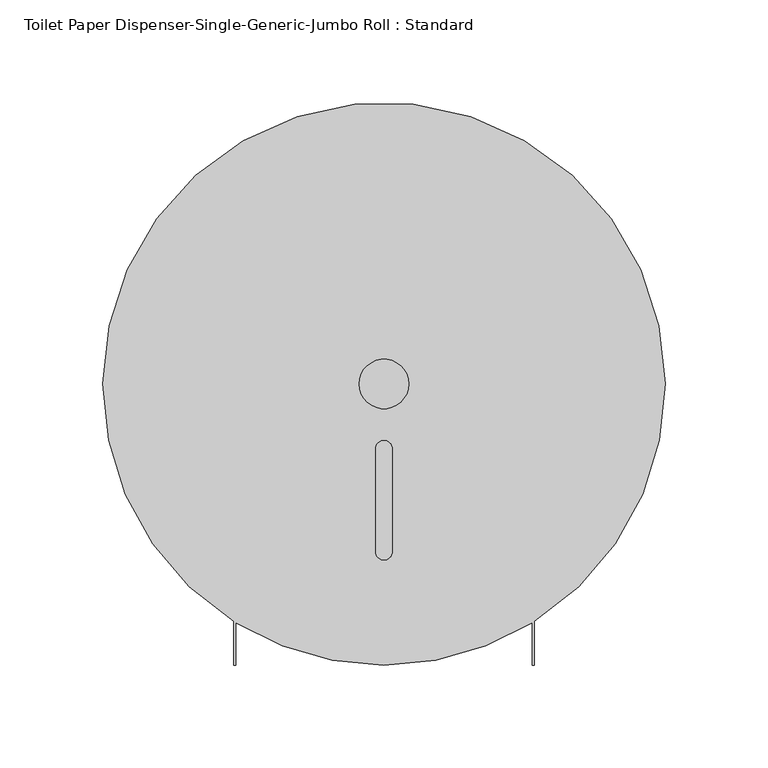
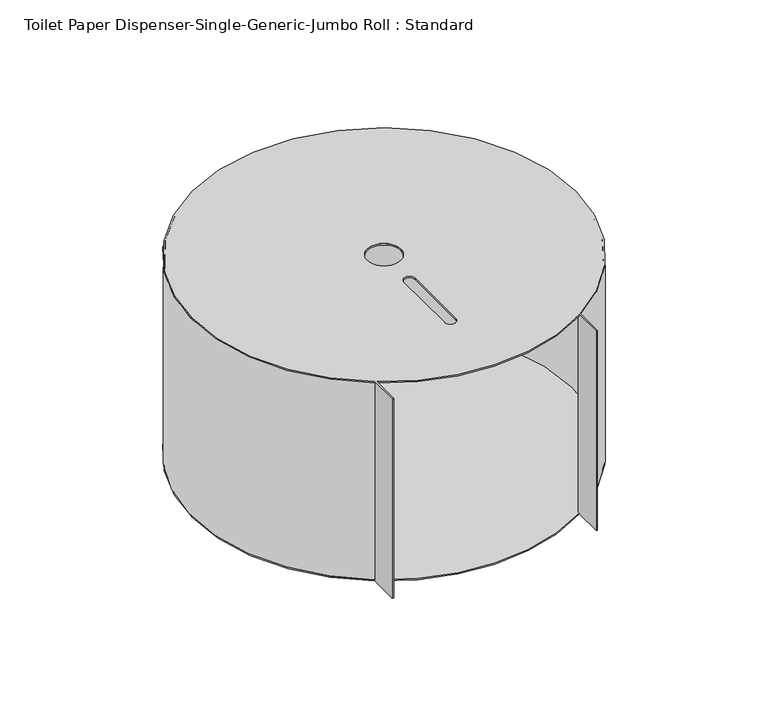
"""IFC4 building model written with IfcOpenShell, lengths in millimetres: proxy geometry, Toilet Paper Dispenser-Single-Generic-Jumbo Roll : Standard."""

from ifc_helpers import new_model, si_unit, frame, origin, origin_with_axes, place, context, project, spatial, polyline, circle_curve, source, transform, mapped, element, save
from ifc_brep_helpers import plane_surface, cylinder_surface, revolved_surface, advanced_brep


def toilet_paper_dispenser_single_generic_jumbo_roll_standard_5525cc7b(model_context):
    return source(origin(), model_context, "Body", "AdvancedBrep", [
        advanced_brep(
        [(-136.5, 0.0, 149.0), (136.5, 0.0, 149.0), (73.0, -115.3397156, 149.0), (73.0, -115.3397156, 1.0), (136.5, 0.0, 1.0), (-136.5, 0.0, 1.0), (-73.0, -115.3397156, 1.0), (-73.0, -115.3397156, 149.0), (-72.0, -114.7878478, 1.0), (-72.0, -114.7878478, 149.0), (-72.0, -115.96659, 149.0), (-72.0, -115.96659, 150.0), (-72.0, -136.5, 150.0), (-72.0, -136.5, 0.0), (-72.0, -115.96659, 0.0), (-72.0, -115.96659, 1.0), (72.0, -114.7878478, 1.0), (72.0, -114.7878478, 149.0), (72.0, -115.96659, 1.0), (72.0, -115.96659, 0.0), (72.0, -136.5, 0.0), (72.0, -136.5, 150.0), (72.0, -115.96659, 150.0), (72.0, -115.96659, 149.0), (136.5, 0.0, 150.0), (-136.5, 0.0, 150.0), (-73.0, -115.3397156, 150.0), (-73.0, -136.5, 150.0), (73.0, -136.5, 150.0), (73.0, -115.3397156, 150.0), (-12.0, 0.0, 150.0), (12.0, 0.0, 150.0), (-4.0, -31.5, 150.0), (4.0, -31.5, 150.0), (4.0, -81.5, 150.0), (-4.0, -81.5, 150.0), (-12.0, 0.0, 149.0), (12.0, 0.0, 149.0), (-4.0, -31.5, 149.0), (-4.0, -81.5, 149.0), (4.0, -81.5, 149.0), (4.0, -31.5, 149.0), (-73.0, -136.5, 0.0), (-73.0, -115.3397156, 0.0), (-136.5, 0.0, 0.0), (136.5, 0.0, 0.0), (73.0, -115.3397156, 0.0), (73.0, -136.5, 0.0)],
        [
            (0, 1, circle_curve(frame((0.0, 0.0, 149.0), z_axis=(0.0, 0.0, -1.0), x_axis=(1.0, 0.0, 0.0)), 136.5)),
            (1, 2, circle_curve(frame((0.0, 0.0, 149.0), z_axis=(0.0, 0.0, -1.0), x_axis=(1.0, 0.0, 0.0)), 136.5)),
            (2, 3),
            (3, 4, circle_curve(frame((0.0, 0.0, 1.0), z_axis=(0.0, 0.0, 1.0), x_axis=(1.0, 0.0, 0.0)), 136.5)),
            (4, 5, circle_curve(frame((0.0, 0.0, 1.0), z_axis=(0.0, 0.0, 1.0), x_axis=(1.0, 0.0, 0.0)), 136.5)),
            (5, 6, circle_curve(frame((0.0, 0.0, 1.0), z_axis=(0.0, 0.0, 1.0), x_axis=(1.0, 0.0, 0.0)), 136.5)),
            (6, 7),
            (7, 0, circle_curve(frame((0.0, 0.0, 149.0), z_axis=(0.0, 0.0, -1.0), x_axis=(1.0, 0.0, 0.0)), 136.5)),
            (8, 9),
            (9, 10),
            (10, 11),
            (11, 12),
            (12, 13),
            (13, 14),
            (14, 15),
            (15, 8),
            (8, 16, circle_curve(frame((0.0, 0.0, 1.0), z_axis=(0.0, 0.0, -1.0), x_axis=(1.0, 0.0, 0.0)), 135.5)),
            (16, 17),
            (17, 9, circle_curve(frame((0.0, 0.0, 149.0), z_axis=(0.0, 0.0, 1.0), x_axis=(1.0, 0.0, 0.0)), 135.5)),
            (16, 18),
            (18, 19),
            (19, 20),
            (20, 21),
            (21, 22),
            (22, 23),
            (23, 17),
            (24, 25, circle_curve(frame((0.0, 0.0, 150.0), z_axis=(0.0, 0.0, 1.0), x_axis=(1.0, 0.0, 0.0)), 136.5)),
            (25, 26, circle_curve(frame((0.0, 0.0, 150.0), z_axis=(0.0, 0.0, 1.0), x_axis=(1.0, 0.0, 0.0)), 136.5)),
            (26, 27),
            (27, 12),
            (11, 22, circle_curve(frame((0.0, 0.0, 150.0), z_axis=(0.0, 0.0, 1.0), x_axis=(1.0, 0.0, 0.0)), 136.5)),
            (21, 28),
            (28, 29),
            (29, 24, circle_curve(frame((0.0, 0.0, 150.0), z_axis=(0.0, 0.0, 1.0), x_axis=(1.0, 0.0, 0.0)), 136.5)),
            (30, 31, circle_curve(frame((0.0, 0.0, 150.0), z_axis=(0.0, 0.0, -1.0), x_axis=(1.0, 0.0, 0.0)), 12.0)),
            (31, 30, circle_curve(frame((0.0, 0.0, 150.0), z_axis=(0.0, 0.0, -1.0), x_axis=(1.0, 0.0, 0.0)), 12.0)),
            (32, 33, circle_curve(frame((0.0, -31.5, 150.0), z_axis=(0.0, 0.0, -1.0), x_axis=(1.0, 0.0, 0.0)), 4.0)),
            (33, 34),
            (34, 35, circle_curve(frame((0.0, -81.5, 150.0), z_axis=(0.0, 0.0, -1.0), x_axis=(1.0, 0.0, 0.0)), 4.0)),
            (35, 32),
            (23, 10, circle_curve(frame((0.0, 0.0, 149.0), z_axis=(0.0, 0.0, -1.0), x_axis=(1.0, 0.0, 0.0)), 136.5)),
            (36, 37, circle_curve(frame((0.0, 0.0, 149.0), z_axis=(0.0, 0.0, 1.0), x_axis=(1.0, 0.0, 0.0)), 12.0)),
            (37, 36, circle_curve(frame((0.0, 0.0, 149.0), z_axis=(0.0, 0.0, 1.0), x_axis=(1.0, 0.0, 0.0)), 12.0)),
            (38, 39),
            (39, 40, circle_curve(frame((0.0, -81.5, 149.0), z_axis=(0.0, 0.0, 1.0), x_axis=(1.0, 0.0, 0.0)), 4.0)),
            (40, 41),
            (41, 38, circle_curve(frame((0.0, -31.5, 149.0), z_axis=(0.0, 0.0, 1.0), x_axis=(1.0, 0.0, 0.0)), 4.0)),
            (25, 0),
            (7, 26),
            (1, 24),
            (29, 2),
            (30, 36),
            (37, 31),
            (32, 38),
            (41, 33),
            (40, 34),
            (39, 35),
            (13, 42),
            (42, 43),
            (43, 44, circle_curve(frame((0.0, 0.0, 0.0), z_axis=(0.0, 0.0, -1.0), x_axis=(1.0, 0.0, 0.0)), 136.5)),
            (44, 45, circle_curve(frame((0.0, 0.0, 0.0), z_axis=(0.0, 0.0, -1.0), x_axis=(1.0, 0.0, 0.0)), 136.5)),
            (45, 46, circle_curve(frame((0.0, 0.0, 0.0), z_axis=(0.0, 0.0, -1.0), x_axis=(1.0, 0.0, 0.0)), 136.5)),
            (46, 47),
            (47, 20),
            (19, 14, circle_curve(frame((0.0, 0.0, 0.0), z_axis=(0.0, 0.0, -1.0), x_axis=(1.0, 0.0, 0.0)), 136.5)),
            (6, 43),
            (42, 27),
            (47, 28),
            (46, 3),
            (15, 18, circle_curve(frame((0.0, 0.0, 1.0), z_axis=(0.0, 0.0, 1.0), x_axis=(1.0, 0.0, 0.0)), 136.5)),
            (5, 44),
            (45, 4),
        ],
        [
            cylinder_surface(frame((0.0, 0.0, 1.0), z_axis=(0.0, 0.0, 1.0), x_axis=(1.0, 0.0, 0.0)), 136.5),
            plane_surface(frame((-72.0, -115.96659, 149.0), z_axis=(1.0, 0.0, 0.0), x_axis=(0.0, 0.0, -1.0))),
            revolved_surface(polyline([(135.5, 0.0, 1.0), (135.5, 0.0, 149.0)]), (0.0, 0.0, 1.0), (0.0, 0.0, -1.0)),
            plane_surface(frame((72.0, -114.7878478, 149.0), z_axis=(-1.0, 1.3062242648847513e-12, 0.0), x_axis=(0.0, 0.0, -1.0))),
            plane_surface(frame((136.5, 0.0, 150.0), z_axis=(0.0, 0.0, 1.0), x_axis=(0.0, 1.0, 0.0))),
            plane_surface(frame((136.5, 0.0, 149.0), z_axis=(0.0, 0.0, -1.0), x_axis=(0.0, -1.0, 0.0))),
            cylinder_surface(frame((0.0, 0.0, 149.0), z_axis=(0.0, 0.0, 1.0), x_axis=(1.0, 0.0, 0.0)), 136.5),
            revolved_surface(polyline([(12.0, 0.0, 149.0), (12.0, 0.0, 150.0)]), (0.0, 0.0, 0.0), (0.0, 0.0, -1.0)),
            revolved_surface(polyline([(4.0, -31.5, 149.0), (4.0, -31.5, 150.0)]), (0.0, -31.5, 0.0), (0.0, 0.0, -1.0)),
            plane_surface(frame((4.0, -31.5, 150.0), z_axis=(-1.0, 0.0, 0.0), x_axis=(0.0, 0.0, -1.0))),
            revolved_surface(polyline([(4.0, -81.5, 149.0), (4.0, -81.5, 150.0)]), (0.0, -81.5, 0.0), (0.0, 0.0, -1.0)),
            plane_surface(frame((-4.0, -81.5, 150.0), z_axis=(1.0, 0.0, 0.0), x_axis=(0.0, 0.0, -1.0))),
            plane_surface(frame((-72.0, -117.8138836, 0.0), z_axis=(0.0, 0.0, -1.0), x_axis=(0.0, -1.0, 0.0))),
            plane_surface(frame((-73.0, -115.3397156, 150.0), z_axis=(-1.0, 0.0, 0.0), x_axis=(0.0, 0.0, -1.0))),
            plane_surface(frame((-73.0, -136.5, 150.0), z_axis=(0.0, -1.0, 0.0), x_axis=(0.0, 0.0, -1.0))),
            plane_surface(frame((72.0, -136.5, 150.0), z_axis=(0.0, -1.0, 0.0), x_axis=(0.0, 0.0, -1.0))),
            plane_surface(frame((73.0, -136.5, 150.0), z_axis=(1.0, 0.0, 0.0), x_axis=(0.0, 0.0, -1.0))),
            plane_surface(frame((136.5, 0.0, 1.0), z_axis=(0.0, 0.0, 1.0), x_axis=(0.0, 1.0, 0.0))),
            cylinder_surface(origin_with_axes(), 136.5),
        ],
        [
            (0, [[1, 2, 3, 4, 5, 6, 7, 8]]),
            (1, [[9, 10, 11, 12, 13, 14, 15, 16]]),
            (2, [[-9, 17, 18, 19]]),
            (3, [[-18, 20, 21, 22, 23, 24, 25, 26]]),
            (4, [[27, 28, 29, 30, -12, 31, -24, 32, 33, 34], [35, 36], [37, 38, 39, 40]]),
            (5, [[41, -10, -19, -26], [42, 43], [44, 45, 46, 47]]),
            (6, [[-41, -25, -31, -11]]),
            (6, [[48, -8, 49, -28]]),
            (6, [[50, -34, 51, -2]]),
            (6, [[-27, -50, -1, -48]]),
            (7, [[-35, 52, -43, 53]]),
            (7, [[-36, -53, -42, -52]]),
            (8, [[-37, 54, -47, 55]]),
            (9, [[-38, -55, -46, 56]]),
            (10, [[-39, -56, -45, 57]]),
            (11, [[-40, -57, -44, -54]]),
            (12, [[58, 59, 60, 61, 62, 63, 64, -22, 65, -14]]),
            (13, [[-29, -49, -7, 66, -59, 67]]),
            (14, [[-30, -67, -58, -13]]),
            (15, [[-32, -23, -64, 68]]),
            (16, [[-33, -68, -63, 69, -3, -51]]),
            (17, [[70, -20, -17, -16]]),
            (18, [[-70, -15, -65, -21]]),
            (18, [[71, -60, -66, -6]]),
            (18, [[72, -4, -69, -62]]),
            (18, [[-61, -71, -5, -72]]),
        ],
    ),
    ])


if __name__ == "__main__":
    model = new_model("IFC4")
    model_context = context("Model", 3, world=origin())
    ifc_project = project(units=[si_unit("LENGTHUNIT", "METRE", prefix="MILLI")], contexts=[model_context])
    site = spatial("IfcSite", under=ifc_project)
    building = spatial("IfcBuilding", under=site)
    placement = place(None, origin())
    toilet_paper_dispenser_single_generic_jumbo_roll_standard_shape = toilet_paper_dispenser_single_generic_jumbo_roll_standard_5525cc7b(model_context)
    element("IfcBuildingElementProxy", 1, Name="Toilet Paper Dispenser-Single-Generic-Jumbo Roll : Standard", ObjectType="Toilet Paper Dispenser-Single-Generic-Jumbo Roll : Standard", at=placement, inside=building, context=model_context, shape_type="MappedRepresentation", body=[
        mapped(toilet_paper_dispenser_single_generic_jumbo_roll_standard_shape, transform((0.0, 0.0, 0.0), x_axis=(1.0, 0.0, 0.0), y_axis=(0.0, 1.0, 0.0), z_axis=(0.0, 0.0, 1.0))),
    ])
    save(model, "model.ifc")
